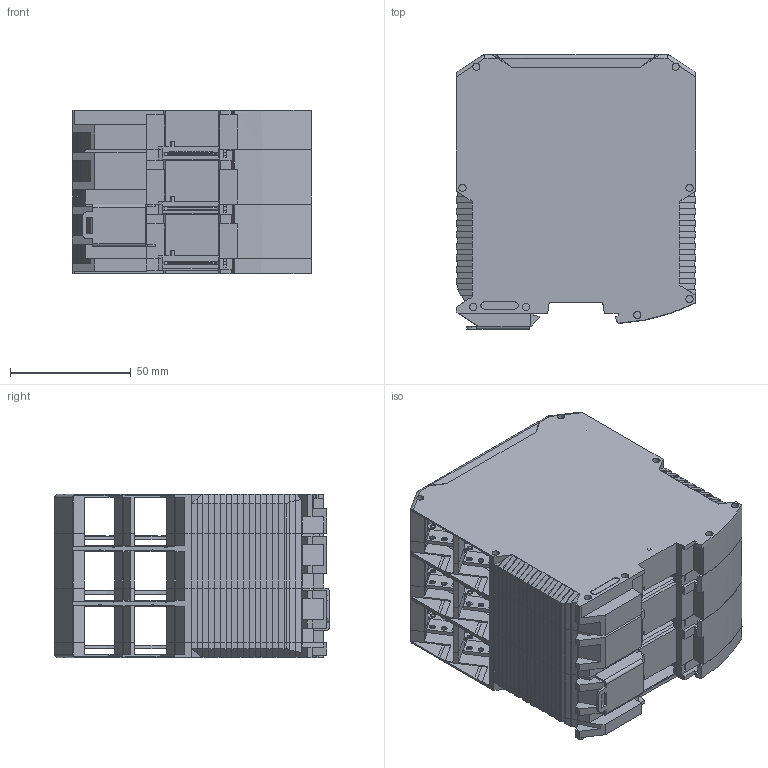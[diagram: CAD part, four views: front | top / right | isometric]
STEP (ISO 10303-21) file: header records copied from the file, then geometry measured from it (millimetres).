
FILE_DESCRIPTION(('SolidDesigner STEP Export'),'2;1');
FILE_NAME('ME_MAX_67.5_G_2-2_H.Select.stp','2011-05-17T 8:38:43',(''),(''),'CoCreate Modeling STEP processor for AP214 (Solid Model)','CoCreate Modeling 16.00A 16-Aug-2008 (C) Parametric Technology GmbH','');
FILE_SCHEMA(('AUTOMOTIVE_DESIGN { 1 0 10303 214 1 1 1 1 }'));
Length unit declared in the file: millimetre
Products named in the file (9): ME_MAX_45_MT_G_2-2_H.Select; ME_MAX_GEH-L_G_2-2_H.Select; ME_MAX_22.5_GEH-R_G_2-2_H.Select; ME_MAX_LP-MKDSO_2-2__00268395; ME_MAX_LP-MSTBO_2-2__00286672.2.1; ME_MAX_67.5_DKL_H.Select__00571962; Fussriegel_17.5_L30_H.Select; ME_MAX_67.5_PLATE__H.Select_00571943; ME_MAX_67.5_G_2-2_H.Select
Assembly tree (13 placements, depth 2):
  ME_MAX_67.5_G_2-2_H.Select
    ME_MAX_45_MT_G_2-2_H.Select  x2
    ME_MAX_67.5_PLATE__H.Select_00571943
    ME_MAX_LP-MSTBO_2-2__00286672.2.1  x3
    Fussriegel_17.5_L30_H.Select
    ME_MAX_LP-MKDSO_2-2__00268395  x3
    ME_MAX_67.5_DKL_H.Select__00571962
    ME_MAX_22.5_GEH-R_G_2-2_H.Select
    ME_MAX_GEH-L_G_2-2_H.Select
Bounding box: 99 x 113.6 x 67.8 mm (x, y, z)
Volume: 174503.6 mm3; surface area: 225315.8 mm2
Topology: 13 solids, 13 shells, 5626 faces, 15442 edges, 10205 vertices
Faces by surface type: plane 4155, cylinder 1469, cone 2
Entity records: 97593 total; most frequent: ORIENTED_EDGE 14970, CARTESIAN_POINT 14553, DIRECTION 12364, EDGE_CURVE 7485, VECTOR 6038, LINE 6038, VERTEX_POINT 4940, AXIS2_PLACEMENT_3D 3163
